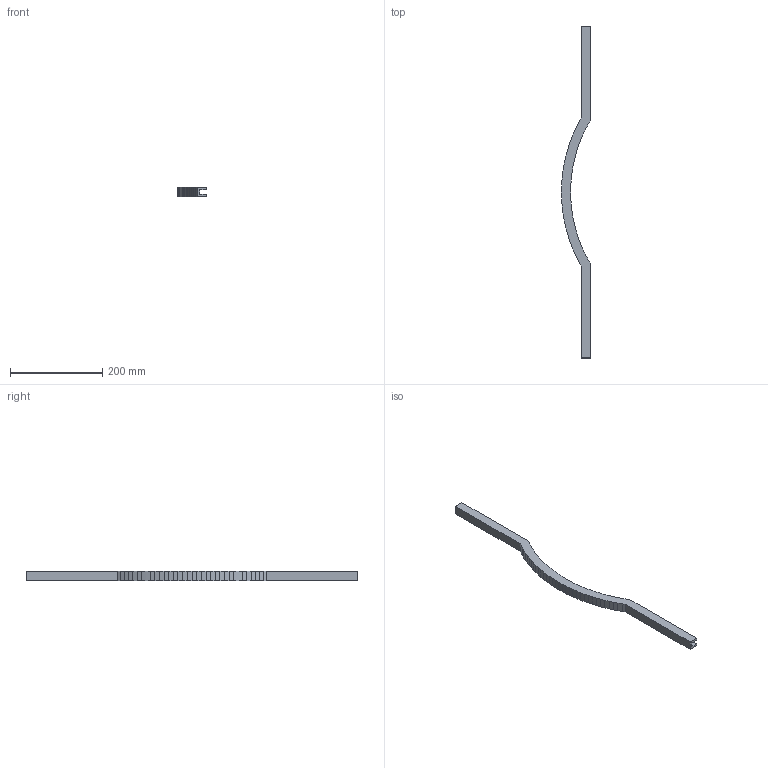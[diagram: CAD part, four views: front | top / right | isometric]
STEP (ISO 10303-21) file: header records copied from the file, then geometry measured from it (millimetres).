
FILE_DESCRIPTION(('STEP AP214'),'1');
FILE_NAME('.step','2025-06-17T06:48:33',(' '),('ANSOFT Corporation'),'Spatial InterOp 3D',' ',' ');
FILE_SCHEMA(('AUTOMOTIVE_DESIGN { 1 0 10303 214 1 1 1 1 }'));
Length unit declared in the file: millimetre
Products named in the file (1): Box70
Bounding box: 63 x 720.4 x 20 mm (x, y, z)
Volume: 183919.2 mm3; surface area: 81435.6 mm2
Topology: 1 solids, 1 shells, 156 faces, 462 edges, 308 vertices
Faces by surface type: plane 156
Entity records: 5130 total; most frequent: CARTESIAN_POINT 927, ORIENTED_EDGE 924, DIRECTION 776, EDGE_CURVE 462, LINE 462, VECTOR 462, VERTEX_POINT 308, AXIS2_PLACEMENT_3D 157
